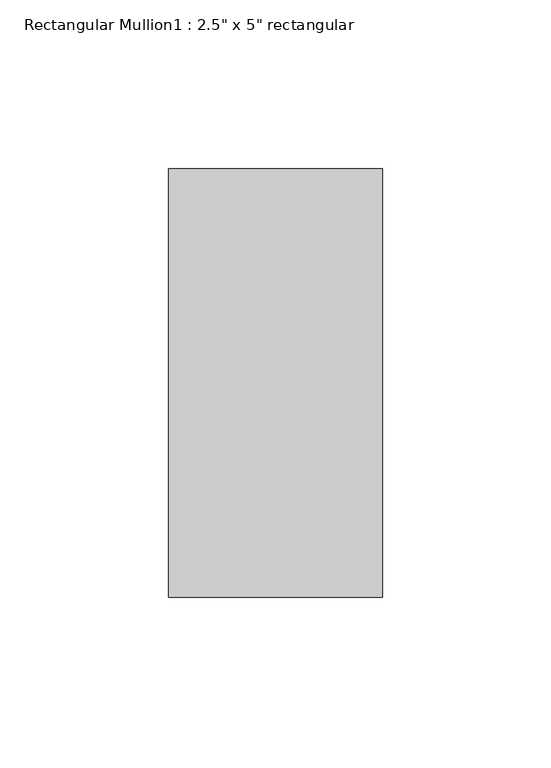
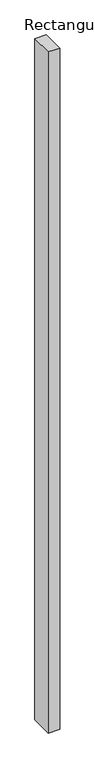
"""IFC4 building model written with IfcOpenShell, lengths in millimetres: member geometry."""

from ifc_helpers import new_model, si_unit, frame, origin, place, context, project, spatial, polyline, outline, extrude, source, transform, mapped, element, save


def member_01a33192(model_context):
    return source(origin(), model_context, "Body", "SweptSolid", [
        extrude(outline(polyline([(31.75, 63.5), (31.75, -63.5), (-31.75, -63.5), (-31.75, 63.5), (31.75, 63.5)])), frame((0.0, 0.0, -3971.7835741), z_axis=(0.0, 0.0, 1.0), x_axis=(1.0, 0.0, 0.0)), (0.0, 0.0, 1.0), 3971.7835741),
    ])


if __name__ == "__main__":
    model = new_model("IFC4")
    model_context = context("Model", 3, world=origin())
    ifc_project = project(units=[si_unit("LENGTHUNIT", "METRE", prefix="MILLI")], contexts=[model_context])
    site = spatial("IfcSite", under=ifc_project)
    building = spatial("IfcBuilding", under=site)
    placement = place(None, origin())
    member_shape = member_01a33192(model_context)
    element("IfcMember", 1, ObjectType="Rectangular Mullion1 : 2.5\" x 5\" rectangular", at=placement, inside=building, context=model_context, shape_type="MappedRepresentation", body=[
        mapped(member_shape, transform((0.0, 0.0, 0.0), x_axis=(1.0, 0.0, 0.0), y_axis=(0.0, 1.0, 0.0), z_axis=(0.0, 0.0, 1.0))),
    ])
    save(model, "model.ifc")
